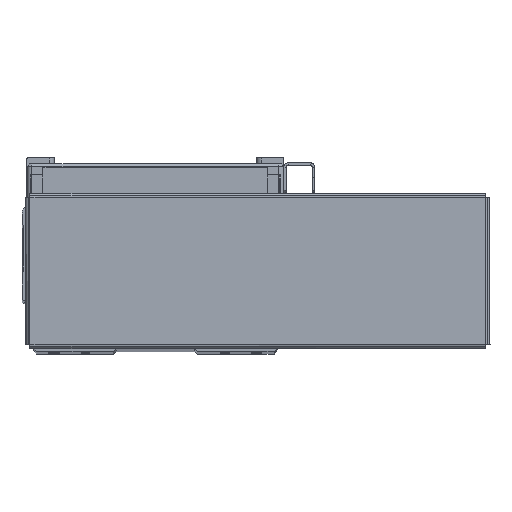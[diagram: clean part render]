
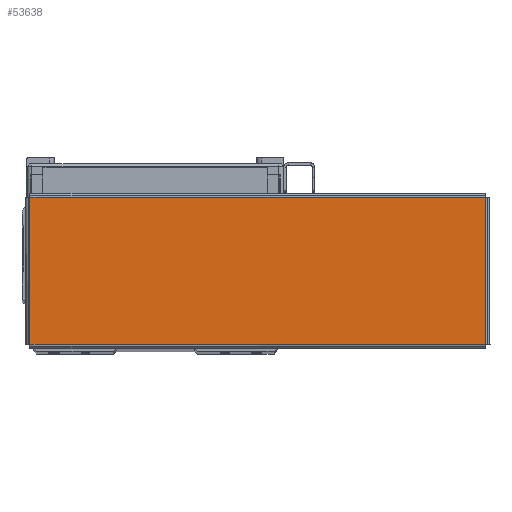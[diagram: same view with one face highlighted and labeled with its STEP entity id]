
A CAD part, top view. The second image highlights one B-rep face of the part: STEP entity #53638.
In plain terms, the highlighted planar face has unit normal (0, 0, 1) as drawn and (0, -1, 0) by its records, which use the part's own axes.
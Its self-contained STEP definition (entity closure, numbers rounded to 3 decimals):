
#7410 = AXIS2_PLACEMENT_3D ( 'NONE', #59910, #59911, #59945 ) ;
#16343 = ORIENTED_EDGE ( 'NONE', *, *, #41017, .T. ) ;
#16345 = ORIENTED_EDGE ( 'NONE', *, *, #40907, .T. ) ;
#16369 = ORIENTED_EDGE ( 'NONE', *, *, #40980, .T. ) ;
#16375 = ORIENTED_EDGE ( 'NONE', *, *, #40973, .T. ) ;
#18982 = VECTOR ( 'NONE', #29599, 1000. ) ;
#19005 = LINE ( 'NONE', #29598, #18982 ) ;
#19050 = VECTOR ( 'NONE', #29827, 1000. ) ;
#19072 = VECTOR ( 'NONE', #29897, 1000. ) ;
#19090 = LINE ( 'NONE', #29868, #19050 ) ;
#19095 = LINE ( 'NONE', #29854, #19072 ) ;
#19116 = LINE ( 'NONE', #30175, #19139 ) ;
#19139 = VECTOR ( 'NONE', #30143, 1000. ) ;
#24937 = VERTEX_POINT ( 'NONE', #58315 ) ;
#24962 = VERTEX_POINT ( 'NONE', #58344 ) ;
#24963 = VERTEX_POINT ( 'NONE', #58369 ) ;
#25050 = VERTEX_POINT ( 'NONE', #58422 ) ;
#29598 = CARTESIAN_POINT ( 'NONE',  ( 92.263, -1., -29.793 ) ) ;
#29599 = DIRECTION ( 'NONE',  ( 0., 0., 1. ) ) ;
#29827 = DIRECTION ( 'NONE',  ( 0., 0., -1. ) ) ;
#29854 = CARTESIAN_POINT ( 'NONE',  ( -92.293, -1., -29.763 ) ) ;
#29868 = CARTESIAN_POINT ( 'NONE',  ( -92.263, -1., 29.793 ) ) ;
#29897 = DIRECTION ( 'NONE',  ( 1., 0., 0. ) ) ;
#30143 = DIRECTION ( 'NONE',  ( -1., 0., 0. ) ) ;
#30175 = CARTESIAN_POINT ( 'NONE',  ( 92.293, -1., 29.763 ) ) ;
#34189 = FACE_OUTER_BOUND ( 'NONE', #49976, .T. ) ;
#40907 = EDGE_CURVE ( 'NONE', #24937, #24962, #19005, .T. ) ;
#40973 = EDGE_CURVE ( 'NONE', #24963, #25050, #19090, .T. ) ;
#40980 = EDGE_CURVE ( 'NONE', #25050, #24937, #19095, .T. ) ;
#41017 = EDGE_CURVE ( 'NONE', #24962, #24963, #19116, .T. ) ;
#49976 = EDGE_LOOP ( 'NONE', ( #16369, #16345, #16343, #16375 ) ) ;
#53638 = ADVANCED_FACE ( 'NONE', ( #34189 ), #59811, .F. ) ;
#58315 = CARTESIAN_POINT ( 'NONE',  ( 92.263, -1., -29.763 ) ) ;
#58344 = CARTESIAN_POINT ( 'NONE',  ( 92.263, -1., 29.763 ) ) ;
#58369 = CARTESIAN_POINT ( 'NONE',  ( -92.263, -1., 29.763 ) ) ;
#58422 = CARTESIAN_POINT ( 'NONE',  ( -92.263, -1., -29.763 ) ) ;
#59811 = PLANE ( 'NONE',  #7410 ) ;
#59910 = CARTESIAN_POINT ( 'NONE',  ( 0., -1., 0. ) ) ;
#59911 = DIRECTION ( 'NONE',  ( 0., 1., 0. ) ) ;
#59945 = DIRECTION ( 'NONE',  ( 0., 0., 1. ) ) ;
